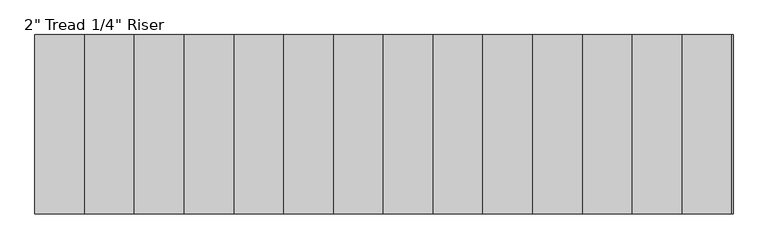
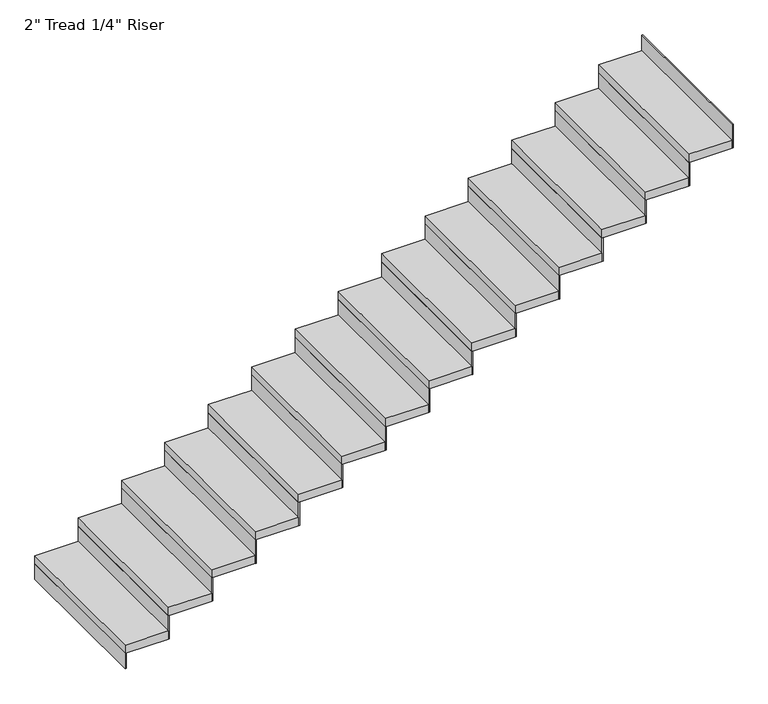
"""IFC4 building model written with IfcOpenShell, lengths in millimetres: stair flight geometry."""

from ifc_helpers import new_model, si_unit, frame, origin, origin_with_axes, place, context, project, spatial, polyline, outline, extrude, source, transform, mapped, element, save


def stair_flight_832208c3(model_context):
    return source(origin(), model_context, "Body", "SweptSolid", [
        extrude(outline(polyline([(157956.5711992, -18859.8846057), (157950.2211992, -18859.8846057), (157950.2211992, -17945.4846057), (157956.5711992, -17945.4846057), (157956.5711992, -18859.8846057)])), origin_with_axes(), (0.0, 0.0, 1.0), 94.3428571),
        extrude(outline(polyline([(158204.2211992, -17945.4846057), (158204.2211992, -18859.8846057), (157950.2211992, -18859.8846057), (157950.2211992, -17945.4846057), (158204.2211992, -17945.4846057)])), frame((0.0, 0.0, 94.3428571), z_axis=(0.0, 0.0, 1.0), x_axis=(1.0, 0.0, 0.0)), (0.0, 0.0, 1.0), 50.8),
        extrude(outline(polyline([(158210.5711992, -18859.8846057), (158204.2211992, -18859.8846057), (158204.2211992, -17945.4846057), (158210.5711992, -17945.4846057), (158210.5711992, -18859.8846057)])), frame((0.0, 0.0, 94.3428571), z_axis=(0.0, 0.0, 1.0), x_axis=(1.0, 0.0, 0.0)), (0.0, 0.0, 1.0), 145.1428571),
        extrude(outline(polyline([(158458.2211992, -17945.4846057), (158458.2211992, -18859.8846057), (158204.2211992, -18859.8846057), (158204.2211992, -17945.4846057), (158458.2211992, -17945.4846057)])), frame((0.0, 0.0, 239.4857143), z_axis=(0.0, 0.0, 1.0), x_axis=(1.0, 0.0, 0.0)), (0.0, 0.0, 1.0), 50.8),
        extrude(outline(polyline([(158464.5711992, -18859.8846057), (158458.2211992, -18859.8846057), (158458.2211992, -17945.4846057), (158464.5711992, -17945.4846057), (158464.5711992, -18859.8846057)])), frame((0.0, 0.0, 239.4857143), z_axis=(0.0, 0.0, 1.0), x_axis=(1.0, 0.0, 0.0)), (0.0, 0.0, 1.0), 145.1428571),
        extrude(outline(polyline([(158712.2211992, -17945.4846057), (158712.2211992, -18859.8846057), (158458.2211992, -18859.8846057), (158458.2211992, -17945.4846057), (158712.2211992, -17945.4846057)])), frame((0.0, 0.0, 384.6285714), z_axis=(0.0, 0.0, 1.0), x_axis=(1.0, 0.0, 0.0)), (0.0, 0.0, 1.0), 50.8),
        extrude(outline(polyline([(158718.5711992, -18859.8846057), (158712.2211992, -18859.8846057), (158712.2211992, -17945.4846057), (158718.5711992, -17945.4846057), (158718.5711992, -18859.8846057)])), frame((0.0, 0.0, 384.6285714), z_axis=(0.0, 0.0, 1.0), x_axis=(1.0, 0.0, 0.0)), (0.0, 0.0, 1.0), 145.1428571),
        extrude(outline(polyline([(158966.2211992, -17945.4846057), (158966.2211992, -18859.8846057), (158712.2211992, -18859.8846057), (158712.2211992, -17945.4846057), (158966.2211992, -17945.4846057)])), frame((0.0, 0.0, 529.7714286), z_axis=(0.0, 0.0, 1.0), x_axis=(1.0, 0.0, 0.0)), (0.0, 0.0, 1.0), 50.8),
        extrude(outline(polyline([(158972.5711992, -18859.8846057), (158966.2211992, -18859.8846057), (158966.2211992, -17945.4846057), (158972.5711992, -17945.4846057), (158972.5711992, -18859.8846057)])), frame((0.0, 0.0, 529.7714286), z_axis=(0.0, 0.0, 1.0), x_axis=(1.0, 0.0, 0.0)), (0.0, 0.0, 1.0), 145.1428571),
        extrude(outline(polyline([(159220.2211992, -17945.4846057), (159220.2211992, -18859.8846057), (158966.2211992, -18859.8846057), (158966.2211992, -17945.4846057), (159220.2211992, -17945.4846057)])), frame((0.0, 0.0, 674.9142857), z_axis=(0.0, 0.0, 1.0), x_axis=(1.0, 0.0, 0.0)), (0.0, 0.0, 1.0), 50.8),
        extrude(outline(polyline([(159226.5711992, -18859.8846057), (159220.2211992, -18859.8846057), (159220.2211992, -17945.4846057), (159226.5711992, -17945.4846057), (159226.5711992, -18859.8846057)])), frame((0.0, 0.0, 674.9142857), z_axis=(0.0, 0.0, 1.0), x_axis=(1.0, 0.0, 0.0)), (0.0, 0.0, 1.0), 145.1428571),
        extrude(outline(polyline([(159474.2211992, -17945.4846057), (159474.2211992, -18859.8846057), (159220.2211992, -18859.8846057), (159220.2211992, -17945.4846057), (159474.2211992, -17945.4846057)])), frame((0.0, 0.0, 820.0571429), z_axis=(0.0, 0.0, 1.0), x_axis=(1.0, 0.0, 0.0)), (0.0, 0.0, 1.0), 50.8),
        extrude(outline(polyline([(159480.5711992, -18859.8846057), (159474.2211992, -18859.8846057), (159474.2211992, -17945.4846057), (159480.5711992, -17945.4846057), (159480.5711992, -18859.8846057)])), frame((0.0, 0.0, 820.0571429), z_axis=(0.0, 0.0, 1.0), x_axis=(1.0, 0.0, 0.0)), (0.0, 0.0, 1.0), 145.1428571),
        extrude(outline(polyline([(159728.2211992, -17945.4846057), (159728.2211992, -18859.8846057), (159474.2211992, -18859.8846057), (159474.2211992, -17945.4846057), (159728.2211992, -17945.4846057)])), frame((0.0, 0.0, 965.2), z_axis=(0.0, 0.0, 1.0), x_axis=(1.0, 0.0, 0.0)), (0.0, 0.0, 1.0), 50.8),
        extrude(outline(polyline([(159734.5711992, -18859.8846057), (159728.2211992, -18859.8846057), (159728.2211992, -17945.4846057), (159734.5711992, -17945.4846057), (159734.5711992, -18859.8846057)])), frame((0.0, 0.0, 965.2), z_axis=(0.0, 0.0, 1.0), x_axis=(1.0, 0.0, 0.0)), (0.0, 0.0, 1.0), 145.1428571),
        extrude(outline(polyline([(159982.2211992, -17945.4846057), (159982.2211992, -18859.8846057), (159728.2211992, -18859.8846057), (159728.2211992, -17945.4846057), (159982.2211992, -17945.4846057)])), frame((0.0, 0.0, 1110.3428571), z_axis=(0.0, 0.0, 1.0), x_axis=(1.0, 0.0, 0.0)), (0.0, 0.0, 1.0), 50.8),
        extrude(outline(polyline([(159988.5711992, -18859.8846057), (159982.2211992, -18859.8846057), (159982.2211992, -17945.4846057), (159988.5711992, -17945.4846057), (159988.5711992, -18859.8846057)])), frame((0.0, 0.0, 1110.3428571), z_axis=(0.0, 0.0, 1.0), x_axis=(1.0, 0.0, 0.0)), (0.0, 0.0, 1.0), 145.1428571),
        extrude(outline(polyline([(160236.2211992, -17945.4846057), (160236.2211992, -18859.8846057), (159982.2211992, -18859.8846057), (159982.2211992, -17945.4846057), (160236.2211992, -17945.4846057)])), frame((0.0, 0.0, 1255.4857143), z_axis=(0.0, 0.0, 1.0), x_axis=(1.0, 0.0, 0.0)), (0.0, 0.0, 1.0), 50.8),
        extrude(outline(polyline([(160242.5711992, -18859.8846057), (160236.2211992, -18859.8846057), (160236.2211992, -17945.4846057), (160242.5711992, -17945.4846057), (160242.5711992, -18859.8846057)])), frame((0.0, 0.0, 1255.4857143), z_axis=(0.0, 0.0, 1.0), x_axis=(1.0, 0.0, 0.0)), (0.0, 0.0, 1.0), 145.1428571),
        extrude(outline(polyline([(160490.2211992, -17945.4846057), (160490.2211992, -18859.8846057), (160236.2211992, -18859.8846057), (160236.2211992, -17945.4846057), (160490.2211992, -17945.4846057)])), frame((0.0, 0.0, 1400.6285714), z_axis=(0.0, 0.0, 1.0), x_axis=(1.0, 0.0, 0.0)), (0.0, 0.0, 1.0), 50.8),
        extrude(outline(polyline([(160496.5711992, -18859.8846057), (160490.2211992, -18859.8846057), (160490.2211992, -17945.4846057), (160496.5711992, -17945.4846057), (160496.5711992, -18859.8846057)])), frame((0.0, 0.0, 1400.6285714), z_axis=(0.0, 0.0, 1.0), x_axis=(1.0, 0.0, 0.0)), (0.0, 0.0, 1.0), 145.1428571),
        extrude(outline(polyline([(160744.2211992, -17945.4846057), (160744.2211992, -18859.8846057), (160490.2211992, -18859.8846057), (160490.2211992, -17945.4846057), (160744.2211992, -17945.4846057)])), frame((0.0, 0.0, 1545.7714286), z_axis=(0.0, 0.0, 1.0), x_axis=(1.0, 0.0, 0.0)), (0.0, 0.0, 1.0), 50.8),
        extrude(outline(polyline([(160750.5711992, -18859.8846057), (160744.2211992, -18859.8846057), (160744.2211992, -17945.4846057), (160750.5711992, -17945.4846057), (160750.5711992, -18859.8846057)])), frame((0.0, 0.0, 1545.7714286), z_axis=(0.0, 0.0, 1.0), x_axis=(1.0, 0.0, 0.0)), (0.0, 0.0, 1.0), 145.1428571),
        extrude(outline(polyline([(160998.2211992, -17945.4846057), (160998.2211992, -18859.8846057), (160744.2211992, -18859.8846057), (160744.2211992, -17945.4846057), (160998.2211992, -17945.4846057)])), frame((0.0, 0.0, 1690.9142857), z_axis=(0.0, 0.0, 1.0), x_axis=(1.0, 0.0, 0.0)), (0.0, 0.0, 1.0), 50.8),
        extrude(outline(polyline([(161004.5711992, -18859.8846057), (160998.2211992, -18859.8846057), (160998.2211992, -17945.4846057), (161004.5711992, -17945.4846057), (161004.5711992, -18859.8846057)])), frame((0.0, 0.0, 1690.9142857), z_axis=(0.0, 0.0, 1.0), x_axis=(1.0, 0.0, 0.0)), (0.0, 0.0, 1.0), 145.1428571),
        extrude(outline(polyline([(161252.2211992, -17945.4846057), (161252.2211992, -18859.8846057), (160998.2211992, -18859.8846057), (160998.2211992, -17945.4846057), (161252.2211992, -17945.4846057)])), frame((0.0, 0.0, 1836.0571429), z_axis=(0.0, 0.0, 1.0), x_axis=(1.0, 0.0, 0.0)), (0.0, 0.0, 1.0), 50.8),
        extrude(outline(polyline([(161258.5711992, -18859.8846057), (161252.2211992, -18859.8846057), (161252.2211992, -17945.4846057), (161258.5711992, -17945.4846057), (161258.5711992, -18859.8846057)])), frame((0.0, 0.0, 1836.0571429), z_axis=(0.0, 0.0, 1.0), x_axis=(1.0, 0.0, 0.0)), (0.0, 0.0, 1.0), 145.1428571),
        extrude(outline(polyline([(161512.5711992, -18859.8846057), (161506.2211992, -18859.8846057), (161506.2211992, -17945.4846057), (161512.5711992, -17945.4846057), (161512.5711992, -18859.8846057)])), frame((0.0, 0.0, 1981.2), z_axis=(0.0, 0.0, 1.0), x_axis=(1.0, 0.0, 0.0)), (0.0, 0.0, 1.0), 145.1428571),
        extrude(outline(polyline([(161506.2211992, -17945.4846057), (161506.2211992, -18859.8846057), (161252.2211992, -18859.8846057), (161252.2211992, -17945.4846057), (161506.2211992, -17945.4846057)])), frame((0.0, 0.0, 1981.2), z_axis=(0.0, 0.0, 1.0), x_axis=(1.0, 0.0, 0.0)), (0.0, 0.0, 1.0), 50.8),
    ])


if __name__ == "__main__":
    model = new_model("IFC4")
    model_context = context("Model", 3, world=origin())
    ifc_project = project(units=[si_unit("LENGTHUNIT", "METRE", prefix="MILLI")], contexts=[model_context])
    site = spatial("IfcSite", under=ifc_project)
    building = spatial("IfcBuilding", under=site)
    placement = place(None, origin())
    stair_flight_shape = stair_flight_832208c3(model_context)
    element("IfcStairFlight", 1, ObjectType="2\" Tread 1/4\" Riser", at=placement, inside=building, context=model_context, shape_type="MappedRepresentation", body=[
        mapped(stair_flight_shape, transform((0.0, 0.0, 0.0), x_axis=(1.0, 0.0, 0.0), y_axis=(0.0, 1.0, 0.0), z_axis=(0.0, 0.0, 1.0))),
    ])
    save(model, "model.ifc")
